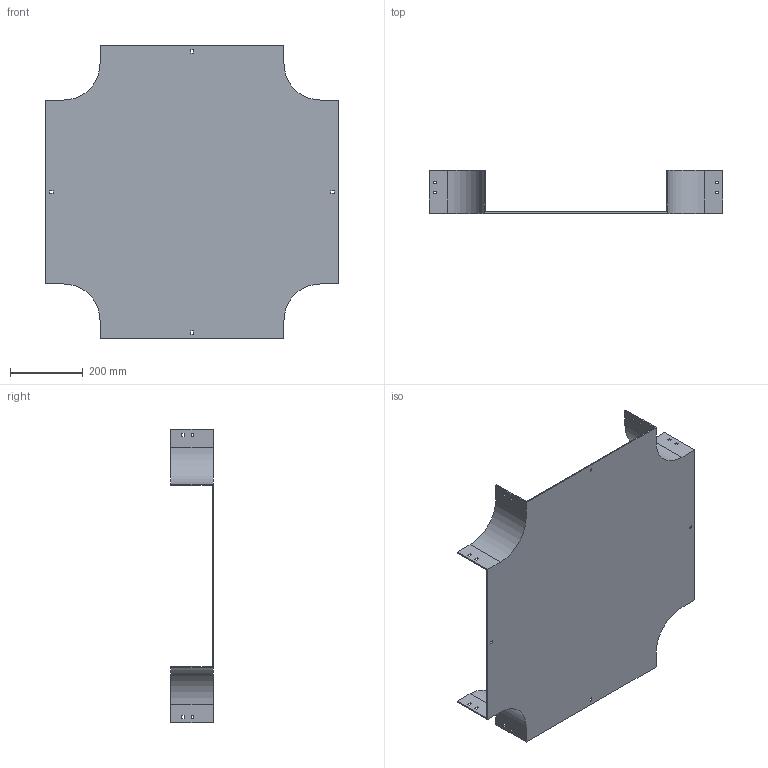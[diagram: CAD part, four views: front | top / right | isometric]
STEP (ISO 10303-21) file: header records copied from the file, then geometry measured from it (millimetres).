
FILE_DESCRIPTION (( 'STEP AP214' ), '1' );
FILE_NAME ('17B1J500.step', '2025-02-21T09:56:49', ( '' ), ( '' ), 'SwSTEP 2.0', 'SolidWorks 2023', '' );
FILE_SCHEMA (( 'AUTOMOTIVE_DESIGN' ));
Length unit declared in the file: millimetre
Products named in the file (1): 17B1J500
Bounding box: 804 x 117.5 x 804 mm (x, y, z)
Volume: 2387447.6 mm3; surface area: 1380440.9 mm2
Topology: 1 solids, 1 shells, 114 faces, 336 edges, 224 vertices
Faces by surface type: plane 106, cylinder 8
Entity records: 3839 total; most frequent: CARTESIAN_POINT 675, ORIENTED_EDGE 672, DIRECTION 582, EDGE_CURVE 336, LINE 320, VECTOR 320, VERTEX_POINT 224, EDGE_LOOP 154
